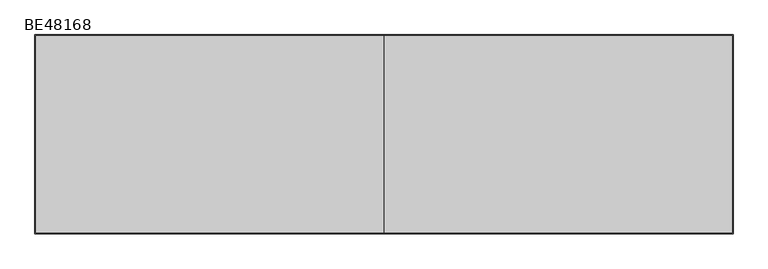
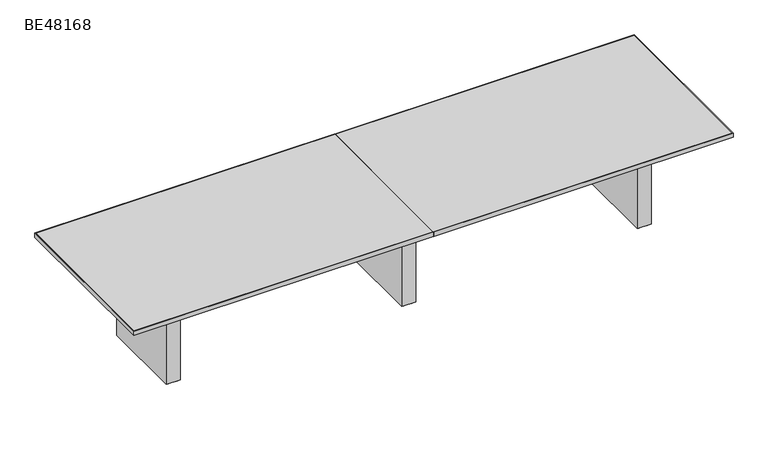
"""IFC4 building model written with IfcOpenShell, lengths in millimetres: furniture geometry, ERG-Beta-Conference_Table-Rectangle : BE48168."""

from ifc_helpers import new_model, si_unit, point, frame, frame_2d, origin, origin_with_axes, place, context, project, spatial, polyline, circle_curve, trimmed, segment, composite_curve, outline, extrude, source, transform, mapped, element, save


def be48168_c655a8c3(model_context):
    return source(origin(), model_context, "Body", "SweptSolid", [
        extrude(outline(composite_curve([segment(trimmed(circle_curve(frame_2d((511.175, 339.476527)), 9.525), [point((501.65, 339.476527))], [point((520.7, 339.476527))], False, "CARTESIAN"), True, "CONTINUOUS"), segment(trimmed(circle_curve(frame_2d((511.175, 339.476527)), 9.525), [point((520.7, 339.476527))], [point((501.65, 339.476527))], False, "CARTESIAN"), True, "CONTINUOUS")], self_intersect=False)), origin_with_axes(), (0.0, 0.0, 1.0), 9.525),
        extrude(outline(composite_curve([segment(trimmed(circle_curve(frame_2d((574.675, 339.476527)), 9.525), [point((565.15, 339.476527))], [point((584.2, 339.476527))], False, "CARTESIAN"), True, "CONTINUOUS"), segment(trimmed(circle_curve(frame_2d((574.675, 339.476527)), 9.525), [point((584.2, 339.476527))], [point((565.15, 339.476527))], False, "CARTESIAN"), True, "CONTINUOUS")], self_intersect=False)), origin_with_axes(), (0.0, 0.0, 1.0), 9.525),
        extrude(outline(composite_curve([segment(trimmed(circle_curve(frame_2d((511.175, -232.023473)), 9.525), [point((501.65, -232.023473))], [point((520.7, -232.023473))], False, "CARTESIAN"), True, "CONTINUOUS"), segment(trimmed(circle_curve(frame_2d((511.175, -232.023473)), 9.525), [point((520.7, -232.023473))], [point((501.65, -232.023473))], False, "CARTESIAN"), True, "CONTINUOUS")], self_intersect=False)), origin_with_axes(), (0.0, 0.0, 1.0), 9.525),
        extrude(outline(composite_curve([segment(trimmed(circle_curve(frame_2d((574.675, -232.023473)), 9.525), [point((565.15, -232.023473))], [point((584.2, -232.023473))], False, "CARTESIAN"), True, "CONTINUOUS"), segment(trimmed(circle_curve(frame_2d((574.675, -232.023473)), 9.525), [point((584.2, -232.023473))], [point((565.15, -232.023473))], False, "CARTESIAN"), True, "CONTINUOUS")], self_intersect=False)), origin_with_axes(), (0.0, 0.0, 1.0), 9.525),
        extrude(outline(polyline([(593.725, 358.526527), (593.725, -251.073473), (492.125, -251.073473), (492.125, 358.526527), (593.725, 358.526527)])), frame((0.0, 0.0, 9.525), z_axis=(0.0, 0.0, 1.0), x_axis=(1.0, 0.0, 0.0)), (0.0, 0.0, 1.0), 695.3249758),
        extrude(outline(composite_curve([segment(trimmed(circle_curve(frame_2d((2187.575, 339.476527)), 9.525), [point((2178.05, 339.476527))], [point((2197.1, 339.476527))], False, "CARTESIAN"), True, "CONTINUOUS"), segment(trimmed(circle_curve(frame_2d((2187.575, 339.476527)), 9.525), [point((2197.1, 339.476527))], [point((2178.05, 339.476527))], False, "CARTESIAN"), True, "CONTINUOUS")], self_intersect=False)), origin_with_axes(), (0.0, 0.0, 1.0), 9.525),
        extrude(outline(composite_curve([segment(trimmed(circle_curve(frame_2d((2251.075, 339.476527)), 9.525), [point((2241.55, 339.476527))], [point((2260.6, 339.476527))], False, "CARTESIAN"), True, "CONTINUOUS"), segment(trimmed(circle_curve(frame_2d((2251.075, 339.476527)), 9.525), [point((2260.6, 339.476527))], [point((2241.55, 339.476527))], False, "CARTESIAN"), True, "CONTINUOUS")], self_intersect=False)), origin_with_axes(), (0.0, 0.0, 1.0), 9.525),
        extrude(outline(composite_curve([segment(trimmed(circle_curve(frame_2d((2187.575, -232.023473)), 9.525), [point((2178.05, -232.023473))], [point((2197.1, -232.023473))], False, "CARTESIAN"), True, "CONTINUOUS"), segment(trimmed(circle_curve(frame_2d((2187.575, -232.023473)), 9.525), [point((2197.1, -232.023473))], [point((2178.05, -232.023473))], False, "CARTESIAN"), True, "CONTINUOUS")], self_intersect=False)), origin_with_axes(), (0.0, 0.0, 1.0), 9.525),
        extrude(outline(composite_curve([segment(trimmed(circle_curve(frame_2d((2251.075, -232.023473)), 9.525), [point((2241.55, -232.023473))], [point((2260.6, -232.023473))], False, "CARTESIAN"), True, "CONTINUOUS"), segment(trimmed(circle_curve(frame_2d((2251.075, -232.023473)), 9.525), [point((2260.6, -232.023473))], [point((2241.55, -232.023473))], False, "CARTESIAN"), True, "CONTINUOUS")], self_intersect=False)), origin_with_axes(), (0.0, 0.0, 1.0), 9.525),
        extrude(outline(polyline([(2270.125, 358.526527), (2270.125, -251.073473), (2168.525, -251.073473), (2168.525, 358.526527), (2270.125, 358.526527)])), frame((0.0, 0.0, 9.525), z_axis=(0.0, 0.0, 1.0), x_axis=(1.0, 0.0, 0.0)), (0.0, 0.0, 1.0), 695.3249758),
        extrude(outline(composite_curve([segment(trimmed(circle_curve(frame_2d((-1165.225, 339.476527)), 9.525), [point((-1174.75, 339.476527))], [point((-1155.7, 339.476527))], False, "CARTESIAN"), True, "CONTINUOUS"), segment(trimmed(circle_curve(frame_2d((-1165.225, 339.476527)), 9.525), [point((-1155.7, 339.476527))], [point((-1174.75, 339.476527))], False, "CARTESIAN"), True, "CONTINUOUS")], self_intersect=False)), origin_with_axes(), (0.0, 0.0, 1.0), 9.525),
        extrude(outline(composite_curve([segment(trimmed(circle_curve(frame_2d((-1101.725, 339.476527)), 9.525), [point((-1111.25, 339.476527))], [point((-1092.2, 339.476527))], False, "CARTESIAN"), True, "CONTINUOUS"), segment(trimmed(circle_curve(frame_2d((-1101.725, 339.476527)), 9.525), [point((-1092.2, 339.476527))], [point((-1111.25, 339.476527))], False, "CARTESIAN"), True, "CONTINUOUS")], self_intersect=False)), origin_with_axes(), (0.0, 0.0, 1.0), 9.525),
        extrude(outline(composite_curve([segment(trimmed(circle_curve(frame_2d((-1165.225, -232.023473)), 9.525), [point((-1174.75, -232.023473))], [point((-1155.7, -232.023473))], False, "CARTESIAN"), True, "CONTINUOUS"), segment(trimmed(circle_curve(frame_2d((-1165.225, -232.023473)), 9.525), [point((-1155.7, -232.023473))], [point((-1174.75, -232.023473))], False, "CARTESIAN"), True, "CONTINUOUS")], self_intersect=False)), origin_with_axes(), (0.0, 0.0, 1.0), 9.525),
        extrude(outline(composite_curve([segment(trimmed(circle_curve(frame_2d((-1101.725, -232.023473)), 9.525), [point((-1111.25, -232.023473))], [point((-1092.2, -232.023473))], False, "CARTESIAN"), True, "CONTINUOUS"), segment(trimmed(circle_curve(frame_2d((-1101.725, -232.023473)), 9.525), [point((-1092.2, -232.023473))], [point((-1111.25, -232.023473))], False, "CARTESIAN"), True, "CONTINUOUS")], self_intersect=False)), origin_with_axes(), (0.0, 0.0, 1.0), 9.525),
        extrude(outline(polyline([(-1082.675, 358.526527), (-1082.675, -251.073473), (-1184.275, -251.073473), (-1184.275, 358.526527), (-1082.675, 358.526527)])), frame((0.0, 0.0, 9.525), z_axis=(0.0, 0.0, 1.0), x_axis=(1.0, 0.0, 0.0)), (0.0, 0.0, 1.0), 695.3249758),
        extrude(outline(polyline([(2676.525, 663.326527), (2676.525, -555.873473), (544.5125, -555.873473), (544.5125, -552.698473), (2673.35, -552.698473), (2673.35, 660.151527), (544.5125, 660.151527), (544.5125, 663.326527), (2676.525, 663.326527)])), frame((0.0, 0.0, 704.85), z_axis=(0.0, 0.0, 1.0), x_axis=(1.0, 0.0, 0.0)), (0.0, 0.0, 1.0), 31.75),
        extrude(outline(polyline([(-1590.675, -555.873473), (-1590.675, 663.326527), (541.3375, 663.326527), (541.3375, 660.151527), (-1587.5, 660.151527), (-1587.5, -552.698473), (541.3375, -552.698473), (541.3375, -555.873473), (-1590.675, -555.873473)])), frame((0.0, 0.0, 704.85), z_axis=(0.0, 0.0, 1.0), x_axis=(1.0, 0.0, 0.0)), (0.0, 0.0, 1.0), 31.75),
        extrude(outline(polyline([(2673.35, 660.151527), (2673.35, -552.698473), (544.5125, -552.698473), (544.5125, 660.151527), (2673.35, 660.151527)])), frame((0.0, 0.0, 704.85), z_axis=(0.0, 0.0, 1.0), x_axis=(1.0, 0.0, 0.0)), (0.0, 0.0, 1.0), 31.75),
        extrude(outline(polyline([(-1587.5, -552.698473), (-1587.5, 660.151527), (541.3375, 660.151527), (541.3375, -552.698473), (-1587.5, -552.698473)])), frame((0.0, 0.0, 704.85), z_axis=(0.0, 0.0, 1.0), x_axis=(1.0, 0.0, 0.0)), (0.0, 0.0, 1.0), 31.75),
    ])


if __name__ == "__main__":
    model = new_model("IFC4")
    model_context = context("Model", 3, world=origin())
    ifc_project = project(units=[si_unit("LENGTHUNIT", "METRE", prefix="MILLI")], contexts=[model_context])
    site = spatial("IfcSite", under=ifc_project)
    building = spatial("IfcBuilding", under=site)
    placement = place(None, origin())
    be48168_shape = be48168_c655a8c3(model_context)
    element("IfcFurniture", 1, ObjectType="ERG-Beta-Conference_Table-Rectangle : BE48168", at=placement, inside=building, context=model_context, shape_type="MappedRepresentation", body=[
        mapped(be48168_shape, transform((0.0, 0.0, 0.0), x_axis=(1.0, 0.0, 0.0), y_axis=(0.0, 1.0, 0.0), z_axis=(0.0, 0.0, 1.0))),
    ])
    save(model, "model.ifc")
